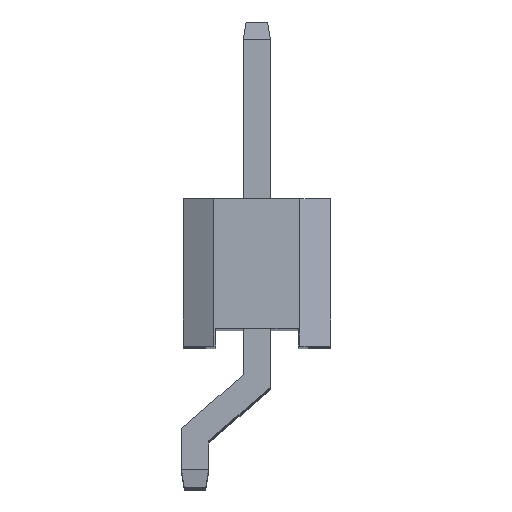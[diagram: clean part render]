
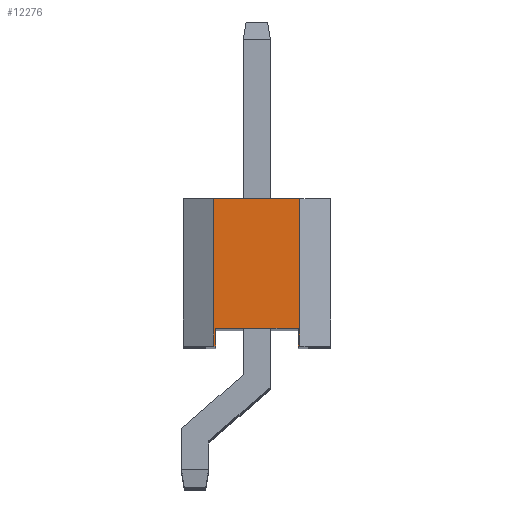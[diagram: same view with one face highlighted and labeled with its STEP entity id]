
A CAD part, top view. The second image highlights one B-rep face of the part: STEP entity #12276.
In plain terms, the highlighted planar face has unit normal (0, 0, 1).
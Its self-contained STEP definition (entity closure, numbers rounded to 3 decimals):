
#5 = CARTESIAN_POINT ( 'NONE',  ( -0.594, -1.418, 3.81 ) ) ;
#1136 = LINE ( 'NONE', #22613, #7392 ) ;
#1245 = EDGE_CURVE ( 'NONE', #9218, #11558, #18619, .T. ) ;
#1290 = VECTOR ( 'NONE', #20151, 1000. ) ;
#1378 = CARTESIAN_POINT ( 'NONE',  ( 0.836, -1.118, 3.81 ) ) ;
#1816 = EDGE_CURVE ( 'NONE', #12995, #11558, #12640, .T. ) ;
#2024 = CARTESIAN_POINT ( 'NONE',  ( 0.866, -1.418, 3.81 ) ) ;
#2176 = LINE ( 'NONE', #11429, #1290 ) ;
#2218 = ORIENTED_EDGE ( 'NONE', *, *, #1245, .F. ) ;
#2701 = CARTESIAN_POINT ( 'NONE',  ( -0.594, 1.082, 3.81 ) ) ;
#2743 = CARTESIAN_POINT ( 'NONE',  ( -0.594, -1.418, 3.81 ) ) ;
#2979 = PLANE ( 'NONE',  #18424 ) ;
#3021 = LINE ( 'NONE', #16824, #5219 ) ;
#3043 = ORIENTED_EDGE ( 'NONE', *, *, #13898, .F. ) ;
#3203 = DIRECTION ( 'NONE',  ( 0., -1., 0. ) ) ;
#3400 = EDGE_CURVE ( 'NONE', #9218, #11748, #7360, .T. ) ;
#3745 = DIRECTION ( 'NONE',  ( 1., 0., 0. ) ) ;
#4114 = ORIENTED_EDGE ( 'NONE', *, *, #18317, .T. ) ;
#4476 = VECTOR ( 'NONE', #11104, 1000. ) ;
#4528 = DIRECTION ( 'NONE',  ( 1., 0., 0. ) ) ;
#4887 = DIRECTION ( 'NONE',  ( 0., 1., 0. ) ) ;
#5219 = VECTOR ( 'NONE', #10103, 1000. ) ;
#5366 = VERTEX_POINT ( 'NONE', #2024 ) ;
#5536 = CARTESIAN_POINT ( 'NONE',  ( 0.866, 1.082, 3.81 ) ) ;
#5678 = EDGE_LOOP ( 'NONE', ( #3043, #8998, #14394, #4114, #6962, #16146, #2218, #19858 ) ) ;
#5921 = VERTEX_POINT ( 'NONE', #10644 ) ;
#6751 = LINE ( 'NONE', #19388, #22809 ) ;
#6752 = CARTESIAN_POINT ( 'NONE',  ( -0.564, -1.418, 3.81 ) ) ;
#6962 = ORIENTED_EDGE ( 'NONE', *, *, #22656, .T. ) ;
#7248 = CARTESIAN_POINT ( 'NONE',  ( -1.114, -1.418, 3.81 ) ) ;
#7254 = CARTESIAN_POINT ( 'NONE',  ( 0., 0., 3.81 ) ) ;
#7360 = LINE ( 'NONE', #7248, #15251 ) ;
#7392 = VECTOR ( 'NONE', #3203, 1000. ) ;
#8251 = LINE ( 'NONE', #15413, #14502 ) ;
#8998 = ORIENTED_EDGE ( 'NONE', *, *, #14803, .F. ) ;
#9218 = VERTEX_POINT ( 'NONE', #5 ) ;
#10103 = DIRECTION ( 'NONE',  ( -1., 0., 0. ) ) ;
#10644 = CARTESIAN_POINT ( 'NONE',  ( -0.564, -1.118, 3.81 ) ) ;
#11104 = DIRECTION ( 'NONE',  ( 0., 1., 0. ) ) ;
#11429 = CARTESIAN_POINT ( 'NONE',  ( 0.836, -1.418, 3.81 ) ) ;
#11558 = VERTEX_POINT ( 'NONE', #2701 ) ;
#11748 = VERTEX_POINT ( 'NONE', #6752 ) ;
#12276 = ADVANCED_FACE ( 'NONE', ( #21172 ), #2979, .T. ) ;
#12293 = VERTEX_POINT ( 'NONE', #16031 ) ;
#12640 = LINE ( 'NONE', #21590, #14508 ) ;
#12995 = VERTEX_POINT ( 'NONE', #5536 ) ;
#13898 = EDGE_CURVE ( 'NONE', #5921, #11748, #1136, .T. ) ;
#14058 = DIRECTION ( 'NONE',  ( -1., 0., 0. ) ) ;
#14394 = ORIENTED_EDGE ( 'NONE', *, *, #20869, .F. ) ;
#14502 = VECTOR ( 'NONE', #4528, 1000. ) ;
#14508 = VECTOR ( 'NONE', #14058, 1000. ) ;
#14803 = EDGE_CURVE ( 'NONE', #18483, #5921, #3021, .T. ) ;
#15251 = VECTOR ( 'NONE', #3745, 1000. ) ;
#15413 = CARTESIAN_POINT ( 'NONE',  ( -1.114, -1.418, 3.81 ) ) ;
#15797 = DIRECTION ( 'NONE',  ( 1., 0., 0. ) ) ;
#16031 = CARTESIAN_POINT ( 'NONE',  ( 0.836, -1.418, 3.81 ) ) ;
#16146 = ORIENTED_EDGE ( 'NONE', *, *, #1816, .T. ) ;
#16824 = CARTESIAN_POINT ( 'NONE',  ( -0.564, -1.118, 3.81 ) ) ;
#17120 = DIRECTION ( 'NONE',  ( 0., 0., 1. ) ) ;
#18317 = EDGE_CURVE ( 'NONE', #12293, #5366, #8251, .T. ) ;
#18424 = AXIS2_PLACEMENT_3D ( 'NONE', #7254, #17120, #15797 ) ;
#18483 = VERTEX_POINT ( 'NONE', #1378 ) ;
#18619 = LINE ( 'NONE', #2743, #4476 ) ;
#19388 = CARTESIAN_POINT ( 'NONE',  ( 0.866, -1.418, 3.81 ) ) ;
#19858 = ORIENTED_EDGE ( 'NONE', *, *, #3400, .T. ) ;
#20151 = DIRECTION ( 'NONE',  ( 0., 1., 0. ) ) ;
#20869 = EDGE_CURVE ( 'NONE', #12293, #18483, #2176, .T. ) ;
#21172 = FACE_OUTER_BOUND ( 'NONE', #5678, .T. ) ;
#21590 = CARTESIAN_POINT ( 'NONE',  ( -1.114, 1.082, 3.81 ) ) ;
#22613 = CARTESIAN_POINT ( 'NONE',  ( -0.564, -1.418, 3.81 ) ) ;
#22656 = EDGE_CURVE ( 'NONE', #5366, #12995, #6751, .T. ) ;
#22809 = VECTOR ( 'NONE', #4887, 1000. ) ;
